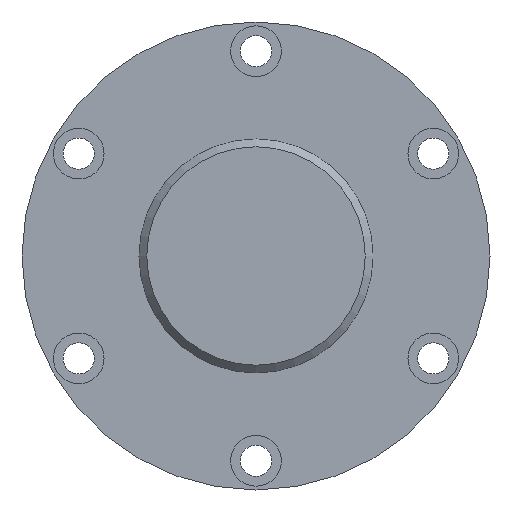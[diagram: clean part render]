
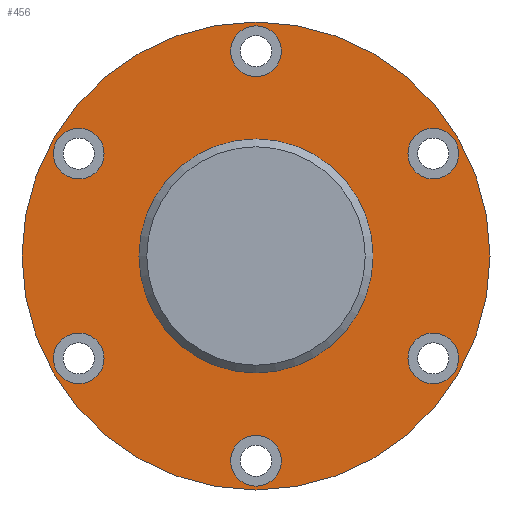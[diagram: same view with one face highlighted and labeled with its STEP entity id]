
A CAD part, front view. The second image highlights one B-rep face of the part: STEP entity #456.
In plain terms, the highlighted planar face has unit normal (0, -1, 0).
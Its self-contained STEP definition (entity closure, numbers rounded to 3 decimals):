
#80=FACE_BOUND('',#159,.T.);
#81=FACE_BOUND('',#160,.T.);
#82=FACE_BOUND('',#161,.T.);
#83=FACE_BOUND('',#162,.T.);
#84=FACE_BOUND('',#163,.T.);
#85=FACE_BOUND('',#164,.T.);
#86=FACE_BOUND('',#165,.T.);
#114=FACE_OUTER_BOUND('',#158,.T.);
#158=EDGE_LOOP('',(#405));
#159=EDGE_LOOP('',(#406));
#160=EDGE_LOOP('',(#407));
#161=EDGE_LOOP('',(#408));
#162=EDGE_LOOP('',(#409));
#163=EDGE_LOOP('',(#410));
#164=EDGE_LOOP('',(#411));
#165=EDGE_LOOP('',(#412));
#170=CIRCLE('',#483,6.5);
#174=CIRCLE('',#490,6.5);
#178=CIRCLE('',#497,6.5);
#182=CIRCLE('',#504,6.5);
#186=CIRCLE('',#511,6.5);
#190=CIRCLE('',#518,6.5);
#206=CIRCLE('',#544,60.);
#207=CIRCLE('',#546,30.);
#211=VERTEX_POINT('',#717);
#215=VERTEX_POINT('',#730);
#219=VERTEX_POINT('',#743);
#223=VERTEX_POINT('',#756);
#227=VERTEX_POINT('',#769);
#231=VERTEX_POINT('',#782);
#244=VERTEX_POINT('',#825);
#245=VERTEX_POINT('',#829);
#249=EDGE_CURVE('',#211,#211,#170,.T.);
#255=EDGE_CURVE('',#215,#215,#174,.T.);
#261=EDGE_CURVE('',#219,#219,#178,.T.);
#267=EDGE_CURVE('',#223,#223,#182,.T.);
#273=EDGE_CURVE('',#227,#227,#186,.T.);
#279=EDGE_CURVE('',#231,#231,#190,.T.);
#299=EDGE_CURVE('',#244,#244,#206,.T.);
#301=EDGE_CURVE('',#245,#245,#207,.T.);
#405=ORIENTED_EDGE('',*,*,#299,.T.);
#406=ORIENTED_EDGE('',*,*,#249,.T.);
#407=ORIENTED_EDGE('',*,*,#255,.T.);
#408=ORIENTED_EDGE('',*,*,#261,.T.);
#409=ORIENTED_EDGE('',*,*,#267,.T.);
#410=ORIENTED_EDGE('',*,*,#273,.T.);
#411=ORIENTED_EDGE('',*,*,#279,.T.);
#412=ORIENTED_EDGE('',*,*,#301,.F.);
#427=PLANE('',#545);
#456=ADVANCED_FACE('',(#114,#80,#81,#82,#83,#84,#85,#86),#427,.T.);
#483=AXIS2_PLACEMENT_3D('',#718,#560,#561);
#490=AXIS2_PLACEMENT_3D('',#731,#576,#577);
#497=AXIS2_PLACEMENT_3D('',#744,#592,#593);
#504=AXIS2_PLACEMENT_3D('',#757,#608,#609);
#511=AXIS2_PLACEMENT_3D('',#770,#624,#625);
#518=AXIS2_PLACEMENT_3D('',#783,#640,#641);
#544=AXIS2_PLACEMENT_3D('',#826,#696,#697);
#545=AXIS2_PLACEMENT_3D('',#828,#699,#700);
#546=AXIS2_PLACEMENT_3D('',#830,#701,#702);
#560=DIRECTION('center_axis',(0.,1.,0.));
#561=DIRECTION('ref_axis',(0.5,0.,-0.866));
#576=DIRECTION('center_axis',(0.,1.,0.));
#577=DIRECTION('ref_axis',(-0.5,0.,-0.866));
#592=DIRECTION('center_axis',(0.,1.,0.));
#593=DIRECTION('ref_axis',(-1.,0.,0.));
#608=DIRECTION('center_axis',(0.,1.,0.));
#609=DIRECTION('ref_axis',(-0.5,0.,0.866));
#624=DIRECTION('center_axis',(0.,1.,0.));
#625=DIRECTION('ref_axis',(0.5,0.,0.866));
#640=DIRECTION('center_axis',(0.,1.,0.));
#641=DIRECTION('ref_axis',(1.,0.,0.));
#696=DIRECTION('center_axis',(0.,-1.,0.));
#697=DIRECTION('ref_axis',(1.,0.,0.));
#699=DIRECTION('center_axis',(0.,-1.,0.));
#700=DIRECTION('ref_axis',(0.,0.,-1.));
#701=DIRECTION('center_axis',(0.,-1.,0.));
#702=DIRECTION('ref_axis',(1.,0.,0.));
#717=CARTESIAN_POINT('',(42.216,0.,31.879));
#718=CARTESIAN_POINT('Origin',(45.466,0.,26.25));
#730=CARTESIAN_POINT('',(48.716,0.,-20.621));
#731=CARTESIAN_POINT('Origin',(45.466,0.,-26.25));
#743=CARTESIAN_POINT('',(6.5,0.,-52.5));
#744=CARTESIAN_POINT('Origin',(0.,0.,-52.5));
#756=CARTESIAN_POINT('',(-42.216,0.,-31.879));
#757=CARTESIAN_POINT('Origin',(-45.466,0.,-26.25));
#769=CARTESIAN_POINT('',(-48.716,0.,20.621));
#770=CARTESIAN_POINT('Origin',(-45.466,0.,26.25));
#782=CARTESIAN_POINT('',(-6.5,0.,52.5));
#783=CARTESIAN_POINT('Origin',(0.,0.,52.5));
#825=CARTESIAN_POINT('',(-60.,0.,0.));
#826=CARTESIAN_POINT('Origin',(0.,0.,0.));
#828=CARTESIAN_POINT('Origin',(30.,0.,0.));
#829=CARTESIAN_POINT('',(-30.,0.,0.));
#830=CARTESIAN_POINT('Origin',(0.,0.,0.));
